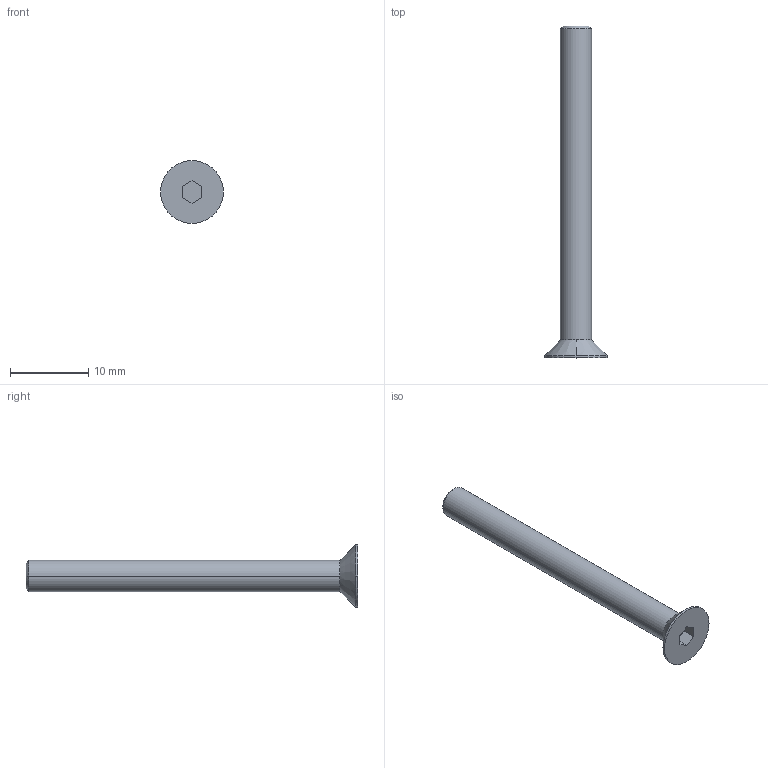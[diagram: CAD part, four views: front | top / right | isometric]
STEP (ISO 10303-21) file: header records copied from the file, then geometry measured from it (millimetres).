
FILE_DESCRIPTION((''),'2;1');
FILE_NAME('VTSEI0440','2002-12-27T',('Lipro doo'),('Lipro d.o.o.'),'PRO/ENGINEER BY PARAMETRIC TECHNOLOGY CORPORATION, 2001150','PRO/ENGINEER BY PARAMETRIC TECHNOLOGY CORPORATION, 2001150','');
FILE_SCHEMA(('CONFIG_CONTROL_DESIGN'));
Length unit declared in the file: millimetre
Products named in the file (1): VTSEI0440
Bounding box: 8 x 42.3 x 8 mm (x, y, z)
Volume: 565.9 mm3; surface area: 1053.9 mm2
Topology: 1 solids, 2 shells, 19 faces, 46 edges, 30 vertices
Faces by surface type: plane 9, cylinder 6, cone 4
Entity records: 606 total; most frequent: DIRECTION 104, CARTESIAN_POINT 96, ORIENTED_EDGE 88, EDGE_CURVE 46, AXIS2_PLACEMENT_3D 38, VERTEX_POINT 30, VECTOR 28, LINE 28
